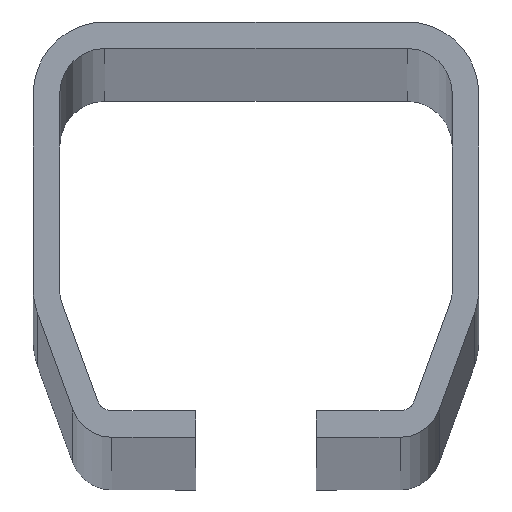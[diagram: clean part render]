
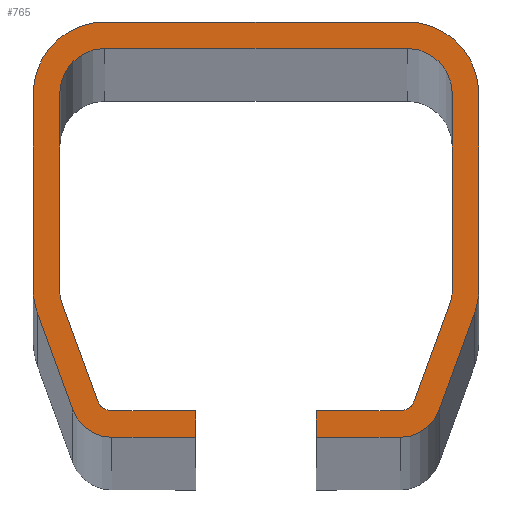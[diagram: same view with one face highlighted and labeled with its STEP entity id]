
A CAD part, top view. The second image highlights one B-rep face of the part: STEP entity #765.
In plain terms, the highlighted planar face has unit normal (0, 0, 1).
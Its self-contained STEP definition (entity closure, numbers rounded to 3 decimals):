
#17=CIRCLE('',#786,2.75);
#19=CIRCLE('',#790,4.75);
#21=CIRCLE('',#794,4.75);
#23=CIRCLE('',#798,4.75);
#25=CIRCLE('',#802,4.75);
#27=CIRCLE('',#806,2.75);
#29=CIRCLE('',#812,1.);
#31=CIRCLE('',#816,3.);
#33=CIRCLE('',#820,3.);
#35=CIRCLE('',#824,3.);
#37=CIRCLE('',#828,3.);
#39=CIRCLE('',#832,1.);
#91=FACE_OUTER_BOUND('',#133,.T.);
#133=EDGE_LOOP('',(#643,#644,#645,#646,#647,#648,#649,#650,#651,#652,#653,
#654,#655,#656,#657,#658,#659,#660,#661,#662,#663,#664,#665,#666,#667,#668,
#669,#670));
#161=LINE('',#1115,#245);
#165=LINE('',#1127,#249);
#169=LINE('',#1139,#253);
#173=LINE('',#1151,#257);
#177=LINE('',#1163,#261);
#181=LINE('',#1175,#265);
#184=LINE('',#1181,#268);
#187=LINE('',#1187,#271);
#191=LINE('',#1199,#275);
#195=LINE('',#1211,#279);
#199=LINE('',#1223,#283);
#203=LINE('',#1235,#287);
#207=LINE('',#1247,#291);
#211=LINE('',#1259,#295);
#214=LINE('',#1265,#298);
#217=LINE('',#1270,#301);
#245=VECTOR('',#895,10.);
#249=VECTOR('',#907,10.);
#253=VECTOR('',#919,10.);
#257=VECTOR('',#931,10.);
#261=VECTOR('',#943,10.);
#265=VECTOR('',#955,10.);
#268=VECTOR('',#960,10.);
#271=VECTOR('',#965,10.);
#275=VECTOR('',#977,10.);
#279=VECTOR('',#989,10.);
#283=VECTOR('',#1001,10.);
#287=VECTOR('',#1013,10.);
#291=VECTOR('',#1025,10.);
#295=VECTOR('',#1037,10.);
#298=VECTOR('',#1042,10.);
#301=VECTOR('',#1047,10.);
#319=VERTEX_POINT('',#1105);
#320=VERTEX_POINT('',#1106);
#323=VERTEX_POINT('',#1114);
#325=VERTEX_POINT('',#1120);
#327=VERTEX_POINT('',#1126);
#329=VERTEX_POINT('',#1132);
#331=VERTEX_POINT('',#1138);
#333=VERTEX_POINT('',#1144);
#335=VERTEX_POINT('',#1150);
#337=VERTEX_POINT('',#1156);
#339=VERTEX_POINT('',#1162);
#341=VERTEX_POINT('',#1168);
#343=VERTEX_POINT('',#1174);
#345=VERTEX_POINT('',#1180);
#347=VERTEX_POINT('',#1186);
#349=VERTEX_POINT('',#1192);
#351=VERTEX_POINT('',#1198);
#353=VERTEX_POINT('',#1204);
#355=VERTEX_POINT('',#1210);
#357=VERTEX_POINT('',#1216);
#359=VERTEX_POINT('',#1222);
#361=VERTEX_POINT('',#1228);
#363=VERTEX_POINT('',#1234);
#365=VERTEX_POINT('',#1240);
#367=VERTEX_POINT('',#1246);
#369=VERTEX_POINT('',#1252);
#371=VERTEX_POINT('',#1258);
#373=VERTEX_POINT('',#1264);
#399=EDGE_CURVE('',#319,#320,#17,.T.);
#403=EDGE_CURVE('',#320,#323,#161,.T.);
#406=EDGE_CURVE('',#323,#325,#19,.T.);
#409=EDGE_CURVE('',#325,#327,#165,.T.);
#412=EDGE_CURVE('',#327,#329,#21,.T.);
#415=EDGE_CURVE('',#329,#331,#169,.T.);
#418=EDGE_CURVE('',#331,#333,#23,.T.);
#421=EDGE_CURVE('',#333,#335,#173,.T.);
#424=EDGE_CURVE('',#335,#337,#25,.T.);
#427=EDGE_CURVE('',#337,#339,#177,.T.);
#430=EDGE_CURVE('',#339,#341,#27,.T.);
#433=EDGE_CURVE('',#341,#343,#181,.T.);
#436=EDGE_CURVE('',#343,#345,#184,.T.);
#439=EDGE_CURVE('',#345,#347,#187,.T.);
#442=EDGE_CURVE('',#347,#349,#29,.T.);
#445=EDGE_CURVE('',#349,#351,#191,.T.);
#448=EDGE_CURVE('',#351,#353,#31,.T.);
#451=EDGE_CURVE('',#353,#355,#195,.T.);
#454=EDGE_CURVE('',#355,#357,#33,.T.);
#457=EDGE_CURVE('',#357,#359,#199,.T.);
#460=EDGE_CURVE('',#359,#361,#35,.T.);
#463=EDGE_CURVE('',#361,#363,#203,.T.);
#466=EDGE_CURVE('',#363,#365,#37,.T.);
#469=EDGE_CURVE('',#365,#367,#207,.T.);
#472=EDGE_CURVE('',#367,#369,#39,.T.);
#475=EDGE_CURVE('',#369,#371,#211,.T.);
#478=EDGE_CURVE('',#371,#373,#214,.T.);
#481=EDGE_CURVE('',#373,#319,#217,.T.);
#643=ORIENTED_EDGE('',*,*,#399,.F.);
#644=ORIENTED_EDGE('',*,*,#481,.F.);
#645=ORIENTED_EDGE('',*,*,#478,.F.);
#646=ORIENTED_EDGE('',*,*,#475,.F.);
#647=ORIENTED_EDGE('',*,*,#472,.F.);
#648=ORIENTED_EDGE('',*,*,#469,.F.);
#649=ORIENTED_EDGE('',*,*,#466,.F.);
#650=ORIENTED_EDGE('',*,*,#463,.F.);
#651=ORIENTED_EDGE('',*,*,#460,.F.);
#652=ORIENTED_EDGE('',*,*,#457,.F.);
#653=ORIENTED_EDGE('',*,*,#454,.F.);
#654=ORIENTED_EDGE('',*,*,#451,.F.);
#655=ORIENTED_EDGE('',*,*,#448,.F.);
#656=ORIENTED_EDGE('',*,*,#445,.F.);
#657=ORIENTED_EDGE('',*,*,#442,.F.);
#658=ORIENTED_EDGE('',*,*,#439,.F.);
#659=ORIENTED_EDGE('',*,*,#436,.F.);
#660=ORIENTED_EDGE('',*,*,#433,.F.);
#661=ORIENTED_EDGE('',*,*,#430,.F.);
#662=ORIENTED_EDGE('',*,*,#427,.F.);
#663=ORIENTED_EDGE('',*,*,#424,.F.);
#664=ORIENTED_EDGE('',*,*,#421,.F.);
#665=ORIENTED_EDGE('',*,*,#418,.F.);
#666=ORIENTED_EDGE('',*,*,#415,.F.);
#667=ORIENTED_EDGE('',*,*,#412,.F.);
#668=ORIENTED_EDGE('',*,*,#409,.F.);
#669=ORIENTED_EDGE('',*,*,#406,.F.);
#670=ORIENTED_EDGE('',*,*,#403,.F.);
#725=PLANE('',#837);
#765=ADVANCED_FACE('',(#91),#725,.T.);
#786=AXIS2_PLACEMENT_3D('',#1107,#887,#888);
#790=AXIS2_PLACEMENT_3D('',#1121,#900,#901);
#794=AXIS2_PLACEMENT_3D('',#1133,#912,#913);
#798=AXIS2_PLACEMENT_3D('',#1145,#924,#925);
#802=AXIS2_PLACEMENT_3D('',#1157,#936,#937);
#806=AXIS2_PLACEMENT_3D('',#1169,#948,#949);
#812=AXIS2_PLACEMENT_3D('',#1193,#970,#971);
#816=AXIS2_PLACEMENT_3D('',#1205,#982,#983);
#820=AXIS2_PLACEMENT_3D('',#1217,#994,#995);
#824=AXIS2_PLACEMENT_3D('',#1229,#1006,#1007);
#828=AXIS2_PLACEMENT_3D('',#1241,#1018,#1019);
#832=AXIS2_PLACEMENT_3D('',#1253,#1030,#1031);
#837=AXIS2_PLACEMENT_3D('',#1272,#1049,#1050);
#887=DIRECTION('center_axis',(0.,0.,-1.));
#888=DIRECTION('ref_axis',(0.94,0.342,0.));
#895=DIRECTION('',(-0.342,0.94,0.));
#900=DIRECTION('center_axis',(0.,0.,-1.));
#901=DIRECTION('ref_axis',(1.,0.,0.));
#907=DIRECTION('',(0.,1.,0.));
#912=DIRECTION('center_axis',(0.,0.,-1.));
#913=DIRECTION('ref_axis',(0.,-1.,0.));
#919=DIRECTION('',(1.,0.,0.));
#924=DIRECTION('center_axis',(0.,0.,-1.));
#925=DIRECTION('ref_axis',(-1.,0.,0.));
#931=DIRECTION('',(0.,-1.,0.));
#936=DIRECTION('center_axis',(0.,0.,-1.));
#937=DIRECTION('ref_axis',(-0.94,0.342,0.));
#943=DIRECTION('',(-0.342,-0.94,0.));
#948=DIRECTION('center_axis',(0.,0.,-1.));
#949=DIRECTION('ref_axis',(0.,1.,0.));
#955=DIRECTION('',(-1.,0.,0.));
#960=DIRECTION('',(0.,1.,0.));
#965=DIRECTION('',(1.,0.,0.));
#970=DIRECTION('center_axis',(0.,0.,1.));
#971=DIRECTION('ref_axis',(0.,-1.,0.));
#977=DIRECTION('',(0.342,0.94,0.));
#982=DIRECTION('center_axis',(0.,0.,1.));
#983=DIRECTION('ref_axis',(0.94,-0.342,0.));
#989=DIRECTION('',(0.,1.,0.));
#994=DIRECTION('center_axis',(0.,0.,1.));
#995=DIRECTION('ref_axis',(1.,0.,0.));
#1001=DIRECTION('',(-1.,0.,0.));
#1006=DIRECTION('center_axis',(0.,0.,1.));
#1007=DIRECTION('ref_axis',(0.,1.,0.));
#1013=DIRECTION('',(0.,-1.,0.));
#1018=DIRECTION('center_axis',(0.,0.,1.));
#1019=DIRECTION('ref_axis',(-1.,0.,0.));
#1025=DIRECTION('',(0.342,-0.94,0.));
#1030=DIRECTION('center_axis',(0.,0.,1.));
#1031=DIRECTION('ref_axis',(-0.94,-0.342,0.));
#1037=DIRECTION('',(1.,0.,0.));
#1042=DIRECTION('',(0.,-1.,0.));
#1047=DIRECTION('',(-1.,0.,0.));
#1049=DIRECTION('center_axis',(0.,0.,1.));
#1050=DIRECTION('ref_axis',(1.,0.,0.));
#1105=CARTESIAN_POINT('',(-9.549,-1.75,2000.));
#1106=CARTESIAN_POINT('',(-12.133,0.059,2000.));
#1107=CARTESIAN_POINT('Origin',(-9.549,1.,2000.));
#1114=CARTESIAN_POINT('',(-14.464,6.463,2000.));
#1115=CARTESIAN_POINT('',(-12.133,0.059,2000.));
#1120=CARTESIAN_POINT('',(-14.75,8.088,2000.));
#1121=CARTESIAN_POINT('Origin',(-10.,8.088,2000.));
#1126=CARTESIAN_POINT('',(-14.75,21.,2000.));
#1127=CARTESIAN_POINT('',(-14.75,8.088,2000.));
#1132=CARTESIAN_POINT('',(-10.,25.75,2000.));
#1133=CARTESIAN_POINT('Origin',(-10.,21.,2000.));
#1138=CARTESIAN_POINT('',(10.,25.75,2000.));
#1139=CARTESIAN_POINT('',(-10.,25.75,2000.));
#1144=CARTESIAN_POINT('',(14.75,21.,2000.));
#1145=CARTESIAN_POINT('Origin',(10.,21.,2000.));
#1150=CARTESIAN_POINT('',(14.75,8.088,2000.));
#1151=CARTESIAN_POINT('',(14.75,21.,2000.));
#1156=CARTESIAN_POINT('',(14.464,6.463,2000.));
#1157=CARTESIAN_POINT('Origin',(10.,8.088,2000.));
#1162=CARTESIAN_POINT('',(12.133,0.059,2000.));
#1163=CARTESIAN_POINT('',(14.464,6.463,2000.));
#1168=CARTESIAN_POINT('',(9.549,-1.75,2000.));
#1169=CARTESIAN_POINT('Origin',(9.549,1.,2000.));
#1174=CARTESIAN_POINT('',(4.,-1.75,2000.));
#1175=CARTESIAN_POINT('',(9.549,-1.75,2000.));
#1180=CARTESIAN_POINT('',(4.,0.,2000.));
#1181=CARTESIAN_POINT('',(4.,-1.75,2000.));
#1186=CARTESIAN_POINT('',(9.549,0.,2000.));
#1187=CARTESIAN_POINT('',(4.,0.,2000.));
#1192=CARTESIAN_POINT('',(10.488,0.658,2000.));
#1193=CARTESIAN_POINT('Origin',(9.549,1.,2000.));
#1198=CARTESIAN_POINT('',(12.819,7.061,2000.));
#1199=CARTESIAN_POINT('',(10.488,0.658,2000.));
#1204=CARTESIAN_POINT('',(13.,8.088,2000.));
#1205=CARTESIAN_POINT('Origin',(10.,8.088,2000.));
#1210=CARTESIAN_POINT('',(13.,21.,2000.));
#1211=CARTESIAN_POINT('',(13.,8.088,2000.));
#1216=CARTESIAN_POINT('',(10.,24.,2000.));
#1217=CARTESIAN_POINT('Origin',(10.,21.,2000.));
#1222=CARTESIAN_POINT('',(-10.,24.,2000.));
#1223=CARTESIAN_POINT('',(10.,24.,2000.));
#1228=CARTESIAN_POINT('',(-13.,21.,2000.));
#1229=CARTESIAN_POINT('Origin',(-10.,21.,2000.));
#1234=CARTESIAN_POINT('',(-13.,8.088,2000.));
#1235=CARTESIAN_POINT('',(-13.,21.,2000.));
#1240=CARTESIAN_POINT('',(-12.819,7.061,2000.));
#1241=CARTESIAN_POINT('Origin',(-10.,8.088,2000.));
#1246=CARTESIAN_POINT('',(-10.488,0.658,2000.));
#1247=CARTESIAN_POINT('',(-12.819,7.061,2000.));
#1252=CARTESIAN_POINT('',(-9.549,0.,2000.));
#1253=CARTESIAN_POINT('Origin',(-9.549,1.,2000.));
#1258=CARTESIAN_POINT('',(-4.,0.,2000.));
#1259=CARTESIAN_POINT('',(-9.549,0.,2000.));
#1264=CARTESIAN_POINT('',(-4.,-1.75,2000.));
#1265=CARTESIAN_POINT('',(-4.,0.,2000.));
#1270=CARTESIAN_POINT('',(-4.,-1.75,2000.));
#1272=CARTESIAN_POINT('Origin',(0.,13.225,2000.));
